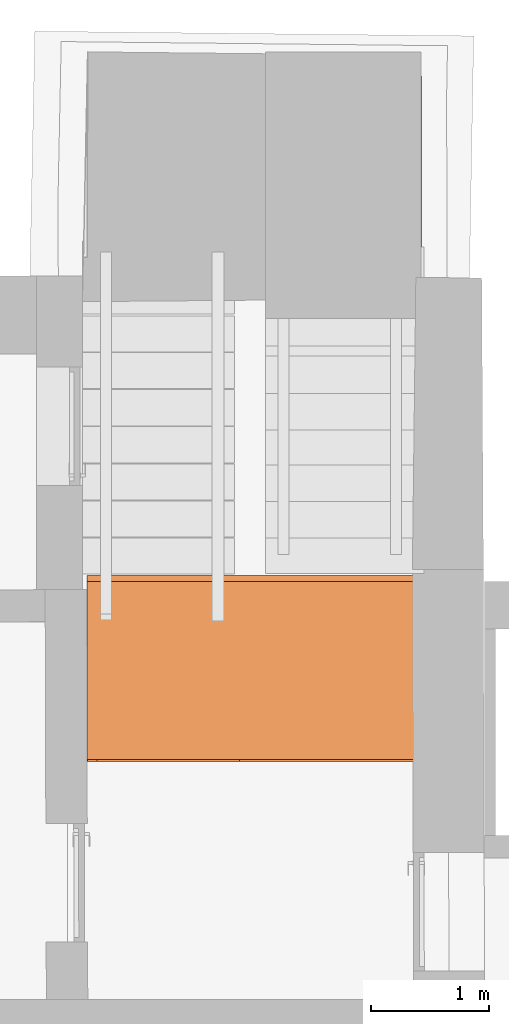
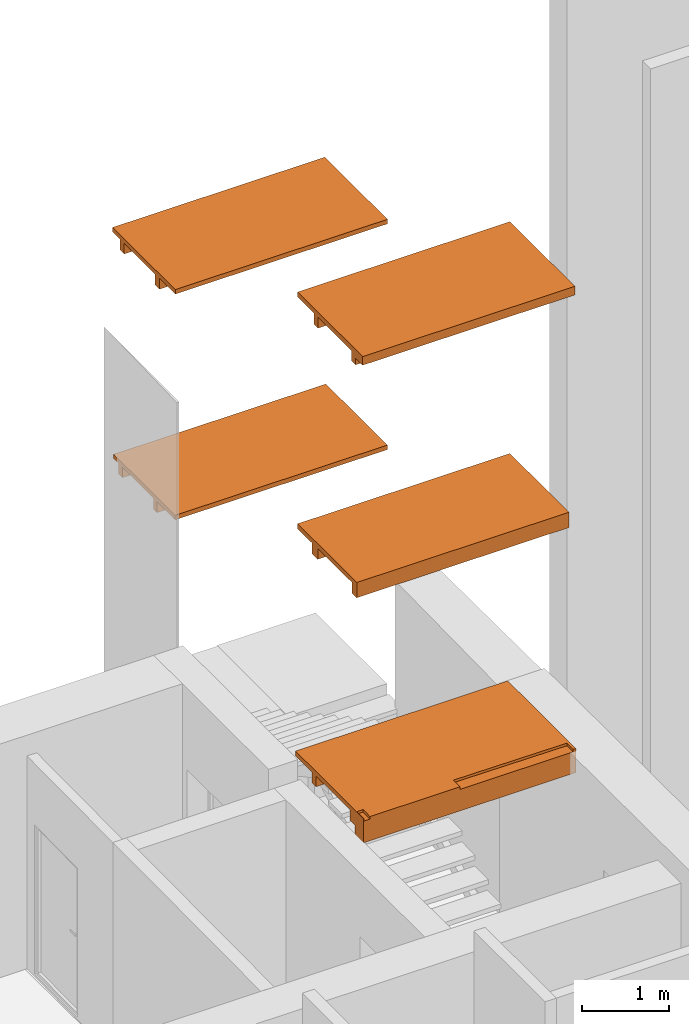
# One storey, part 17 of 17: 1 proxy.
"""IFC2X3 building model written with IfcOpenShell, lengths in millimetres."""

from ifc_helpers import new_model, entity, si_unit, converted_unit, derived_unit, direction, frame, origin, place, context, subcontext, project, spatial, faceted_brep, source, transform, mapped, type_object, type_shapes, element, save


model = new_model("IFC2X3")

# Units and contexts
model_context = context("Model", 3, precision=0.01, world=origin(), true_north=direction((6.12303176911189e-17, 1.0)))
context_of_model = context(None, 3, precision=0.01, world=origin(), true_north=direction((6.12303176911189e-17, 1.0)))
body_context = subcontext(model_context, "Body", "Model", "MODEL_VIEW")
ifc_project = project(units=[si_unit("LENGTHUNIT", "METRE", prefix="MILLI"), si_unit("AREAUNIT", "SQUARE_METRE"), si_unit("VOLUMEUNIT", "CUBIC_METRE"), converted_unit("PLANEANGLEUNIT", "DEGREE", entity("IfcRatioMeasure", 0.0174532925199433), si_unit("PLANEANGLEUNIT", "RADIAN"), dimensions=[0, 0, 0, 0, 0, 0, 0]), si_unit("MASSUNIT", "GRAM", prefix="KILO"), derived_unit("MASSDENSITYUNIT", [(si_unit("MASSUNIT", "GRAM", prefix="KILO"), 1), (si_unit("LENGTHUNIT", "METRE"), -3)]), si_unit("TIMEUNIT", "SECOND"), si_unit("FREQUENCYUNIT", "HERTZ"), si_unit("THERMODYNAMICTEMPERATUREUNIT", "DEGREE_CELSIUS"), derived_unit("THERMALTRANSMITTANCEUNIT", [(si_unit("MASSUNIT", "GRAM", prefix="KILO"), 1), (si_unit("THERMODYNAMICTEMPERATUREUNIT", "KELVIN"), -1), (si_unit("TIMEUNIT", "SECOND"), -3)]), derived_unit("VOLUMETRICFLOWRATEUNIT", [(si_unit("LENGTHUNIT", "METRE"), 3), (si_unit("TIMEUNIT", "SECOND"), -1)]), si_unit("ELECTRICCURRENTUNIT", "AMPERE"), si_unit("ELECTRICVOLTAGEUNIT", "VOLT"), si_unit("POWERUNIT", "WATT"), si_unit("FORCEUNIT", "NEWTON", prefix="KILO"), si_unit("ILLUMINANCEUNIT", "LUX"), si_unit("LUMINOUSFLUXUNIT", "LUMEN"), si_unit("LUMINOUSINTENSITYUNIT", "CANDELA"), derived_unit("USERDEFINED", [(si_unit("MASSUNIT", "GRAM", prefix="KILO"), -1), (si_unit("LENGTHUNIT", "METRE"), -2), (si_unit("TIMEUNIT", "SECOND"), 3), (si_unit("LUMINOUSFLUXUNIT", "LUMEN"), 1)]), derived_unit("LINEARVELOCITYUNIT", [(si_unit("LENGTHUNIT", "METRE"), 1), (si_unit("TIMEUNIT", "SECOND"), -1)]), si_unit("PRESSUREUNIT", "PASCAL"), derived_unit("USERDEFINED", [(si_unit("LENGTHUNIT", "METRE"), -2), (si_unit("MASSUNIT", "GRAM", prefix="KILO"), 1), (si_unit("TIMEUNIT", "SECOND"), -2)])], contexts=[model_context, context_of_model])

# Site, building, storey
site_placement = place(None, frame((121442.264707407, 135347.995453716, -1800.0)))
site = spatial("IfcSite", under=ifc_project, at=site_placement, Name="Surface", CompositionType="ELEMENT")
building_placement = place(site_placement, origin())
building = spatial("IfcBuilding", under=site, at=building_placement, CompositionType="ELEMENT")
storey_placement = place(building_placement, frame((0.0, 0.0, -1490.0)))
storey = spatial("IfcBuildingStorey", under=building, at=storey_placement, Name="Kelder", CompositionType="ELEMENT", Elevation=-1489.99999999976)

# Proxy
building_element_proxy_type = type_object("IfcBuildingElementProxyType", Name="Stairs21", PredefinedType="NOTDEFINED")
shared_shape = source(origin(), body_context, "Body", "Brep", [
    faceted_brep([(2827.30836330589, 5790.92948407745, 5156.76976505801), (2827.30836330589, 4345.72763201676, 5156.76976505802), (2827.30836330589, 4345.72763201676, 5093.6362636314), (2827.30836330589, 4710.85883248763, 5093.6362636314), (2827.30836330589, 4710.85883248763, 4940.78552237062), (2827.30836330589, 4816.92946486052, 4940.78552237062), (2827.30836330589, 4816.92946486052, 5090.78552237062), (2827.30836330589, 5526.92946486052, 5090.78552237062), (2827.30836330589, 5526.92946486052, 4941.76976505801), (2827.30836330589, 5615.92948407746, 4941.76976505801), (2827.30836330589, 5615.92948407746, 5091.76976505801), (2827.30836330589, 5790.92948407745, 5091.76976505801), (0.0, 5790.92948407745, 5156.76976505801), (0.0, 4345.72763201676, 5156.76976505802), (0.0, 4345.72763201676, 5093.6362636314), (0.0, 4710.85883248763, 5093.6362636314), (0.0, 4710.85883248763, 4940.78552237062), (0.0, 4816.92946486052, 4940.78552237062), (0.0, 4816.92946486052, 5090.78552237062), (0.0, 5526.92946486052, 5090.78552237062), (0.0, 5526.92946486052, 4941.76976505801), (0.0, 5615.92948407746, 4941.76976505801), (0.0, 5615.92948407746, 5091.76976505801), (0.0, 5790.92948407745, 5091.76976505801)], [[[0, 1, 2, 3, 4, 5, 6, 7, 8, 9, 10, 11]], [[1, 0, 12, 13]], [[2, 1, 13, 14]], [[3, 2, 14, 15]], [[4, 3, 15, 16]], [[5, 4, 16, 17]], [[6, 5, 17, 18]], [[7, 6, 18, 19]], [[8, 7, 19, 20]], [[9, 8, 20, 21]], [[10, 9, 21, 22]], [[11, 10, 22, 23]], [[0, 11, 23, 12]], [[12, 23, 22, 21, 20, 19, 18, 17, 16, 15, 14, 13]]]),
    faceted_brep([(0.0, 1521.05612040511, 6837.05437827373), (0.0, 1521.05612040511, 6763.71242613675), (0.0, 1145.89626562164, 6763.71242613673), (0.0, 1145.89626562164, 6609.92247764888), (0.0, 1053.67629586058, 6609.92247764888), (0.0, 1053.67629586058, 6765.22567676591), (0.0, 278.676295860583, 6765.22567676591), (0.0, 278.676295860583, 6620.22567676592), (0.0, 183.676295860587, 6620.22567676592), (0.0, 183.676295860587, 6715.22567676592), (0.0, 19.7279995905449, 6715.22567676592), (0.0, 19.7279995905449, 6837.05437827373), (2827.30836330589, 19.7279995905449, 6837.05437827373), (2827.30836330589, 1521.05612040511, 6837.05437827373), (2827.30836330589, 19.7279995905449, 6715.22567676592), (2827.30836330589, 183.676295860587, 6715.22567676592), (2827.30836330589, 183.676295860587, 6620.22567676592), (2827.30836330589, 278.676295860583, 6620.22567676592), (2827.30836330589, 278.676295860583, 6765.22567676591), (2827.30836330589, 1053.67629586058, 6765.22567676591), (2827.30836330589, 1053.67629586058, 6609.92247764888), (2827.30836330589, 1145.89626562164, 6609.92247764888), (2827.30836330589, 1145.89626562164, 6763.71242613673), (2827.30836330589, 1521.05612040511, 6763.71242613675)], [[[0, 1, 2, 3, 4, 5, 6, 7, 8, 9, 10, 11]], [[12, 13, 0, 11]], [[14, 12, 11, 10]], [[15, 14, 10, 9]], [[16, 15, 9, 8]], [[17, 16, 8, 7]], [[18, 17, 7, 6]], [[19, 18, 6, 5]], [[20, 19, 5, 4]], [[21, 20, 4, 3]], [[22, 21, 3, 2]], [[23, 22, 2, 1]], [[13, 23, 1, 0]], [[13, 12, 14, 15, 16, 17, 18, 19, 20, 21, 22, 23]]]),
    faceted_brep([(2827.30836330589, 156.936147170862, 3571.624705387), (2827.30836330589, 1522.04465906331, 3571.624705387), (0.0, 1522.04465906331, 3571.624705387), (0.0, 156.936147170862, 3571.624705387), (2827.30836330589, 156.936147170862, 3356.40163234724), (0.0, 156.936147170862, 3356.40163234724), (2827.30836330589, 272.703670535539, 3356.40163234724), (0.0, 272.703670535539, 3356.40163234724), (2827.30836330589, 272.703670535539, 3505.15163234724), (0.0, 272.703670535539, 3505.15163234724), (2827.30836330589, 1057.70367053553, 3505.15163234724), (0.0, 1057.70367053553, 3505.15163234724), (2827.30836330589, 1057.70367053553, 3351.40163234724), (0.0, 1057.70367053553, 3351.40163234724), (2827.30836330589, 1185.64939938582, 3351.40163234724), (0.0, 1185.64939938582, 3351.40163234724), (1069.29671335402, 1185.64939938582, 3351.40163234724), (1168.73776081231, 1185.64939938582, 3351.40163234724), (2827.30836330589, 1185.64939938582, 3501.624705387), (0.0, 1185.64939938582, 3501.624705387), (2827.30836330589, 1522.04465906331, 3501.624705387), (0.0, 1522.04465906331, 3501.624705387)], [[[0, 1, 2, 3]], [[4, 0, 3, 5]], [[6, 4, 5, 7]], [[8, 6, 7, 9]], [[10, 8, 9, 11]], [[12, 10, 11, 13]], [[14, 12, 13, 15, 16, 17]], [[18, 14, 17, 16, 15, 19]], [[20, 18, 19, 21]], [[1, 20, 21, 2]], [[1, 0, 4, 6, 8, 10, 12, 14, 18, 20]], [[2, 21, 19, 15, 13, 11, 9, 7, 5, 3]]]),
    faceted_brep([(2827.30836330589, 4347.86965589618, 1976.04717165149), (2827.30836330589, 5767.86965589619, 1976.04717165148), (0.0, 5767.86965589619, 1976.04717165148), (0.0, 4347.86965589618, 1976.04717165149), (2827.30836330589, 4347.86965589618, 1912.66756190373), (0.0, 4347.86965589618, 1912.66756190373), (115.244527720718, 4347.86965589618, 1912.66756190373), (216.281461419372, 4347.86965589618, 1912.66756190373), (2827.30836330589, 4768.67786846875, 1912.66756190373), (0.0, 4768.67786846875, 1912.66756190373), (115.244527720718, 4768.67786846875, 1912.66756190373), (216.281461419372, 4768.67786846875, 1912.66756190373), (1069.29671335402, 4768.67786846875, 1912.66756190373), (1168.73776081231, 4768.67786846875, 1912.66756190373), (2827.30836330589, 4768.67786846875, 1757.66756190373), (0.0, 4768.67786846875, 1757.66756190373), (1069.29671335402, 4768.67786846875, 1757.66756190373), (1168.73776081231, 4768.67786846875, 1757.66756190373), (2827.30836330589, 4853.67786846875, 1757.66756190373), (0.0, 4853.67786846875, 1757.66756190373), (2827.30836330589, 4853.67786846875, 1916.04717165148), (0.0, 4853.67786846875, 1916.04717165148), (2827.30836330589, 5567.8696558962, 1916.04717165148), (0.0, 5567.8696558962, 1916.04717165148), (2827.30836330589, 5567.8696558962, 1766.04717165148), (0.0, 5567.8696558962, 1766.04717165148), (2827.30836330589, 5657.8696558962, 1766.04717165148), (0.0, 5657.8696558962, 1766.04717165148), (2827.30836330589, 5657.8696558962, 1916.04717165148), (0.0, 5657.8696558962, 1916.04717165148), (2827.30836330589, 5767.86965589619, 1916.04717165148), (0.0, 5767.86965589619, 1916.04717165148)], [[[0, 1, 2, 3]], [[4, 0, 3, 5, 6, 7]], [[8, 4, 7, 6, 5, 9, 10, 11, 12, 13]], [[14, 8, 13, 12, 11, 10, 9, 15, 16, 17]], [[18, 14, 17, 16, 15, 19]], [[20, 18, 19, 21]], [[22, 20, 21, 23]], [[24, 22, 23, 25]], [[26, 24, 25, 27]], [[28, 26, 27, 29]], [[30, 28, 29, 31]], [[1, 30, 31, 2]], [[1, 0, 4, 8, 14, 18, 20, 22, 24, 26, 28, 30]], [[2, 31, 29, 27, 25, 23, 21, 19, 15, 9, 5, 3]]]),
    faceted_brep([(2827.30836330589, 1571.15178187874, 340.0), (2827.30836330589, 1571.15178187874, 275.0), (1713.06098181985, 1571.15178187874, 275.0), (1611.6249329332, 1571.15178187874, 275.0), (0.0, 1571.15178187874, 275.0), (0.0, 1571.15178187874, 340.0), (2827.30836330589, 0.0, 340.0), (0.0, 0.0, 340.0), (5.93486559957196, 0.0, 340.0), (5.93486559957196, 163.00835145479, 340.0), (87.2672908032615, 162.429936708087, 340.0), (86.1121319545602, 0.0, 340.0), (1286.14247764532, 0.0, 340.0), (1287.23694588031, 153.896069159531, 340.0), (2790.22938989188, 143.207183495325, 340.0), (2790.22938989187, 0.0, 340.0), (2827.30836330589, 0.0, 0.0), (2790.22938989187, 0.0, 303.788951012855), (1286.14247764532, 0.0, 303.788951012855), (86.1121319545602, 0.0, 303.788951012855), (5.93486559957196, 0.0, 303.788951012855), (0.0, 0.0, 0.0), (2827.30836330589, 193.436054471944, 0.0), (0.0, 193.436054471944, 0.0), (2827.30836330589, 193.436054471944, 125.0), (0.0, 193.436054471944, 125.0), (2827.30836330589, 318.43605447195, 125.0), (0.0, 318.43605447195, 125.0), (2827.30836330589, 318.43605447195, 275.0), (0.0, 318.43605447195, 275.0), (2827.30836330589, 1097.1829767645, 275.0), (0.0, 1097.1829767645, 275.0), (2827.30836330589, 1097.1829767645, 125.0), (0.0, 1097.1829767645, 125.0), (2827.30836330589, 1189.39280015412, 125.0), (0.0, 1189.39280015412, 125.0), (1611.6249329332, 1189.39280015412, 125.0), (1713.06098181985, 1189.39280015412, 125.0), (2557.34052366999, 1189.39280015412, 125.0), (2652.15979991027, 1189.39280015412, 125.0), (2827.30836330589, 1189.39280015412, 275.0), (0.0, 1189.39280015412, 275.0), (1287.23694588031, 153.896069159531, 303.788951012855), (2790.22938989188, 143.207183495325, 303.788951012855), (5.93486559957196, 163.008351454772, 303.788951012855), (87.267290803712, 162.42993670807, 303.788951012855)], [[[0, 1, 2, 3, 4, 5]], [[6, 0, 5, 7, 8, 9, 10, 11, 12, 13, 14, 15]], [[16, 6, 15, 17, 18, 12, 11, 19, 20, 8, 7, 21]], [[22, 16, 21, 23]], [[24, 22, 23, 25]], [[26, 24, 25, 27]], [[28, 26, 27, 29]], [[30, 28, 29, 31]], [[32, 30, 31, 33]], [[34, 32, 33, 35, 36, 37, 38, 39]], [[40, 34, 39, 38, 37, 36, 35, 41]], [[1, 40, 41, 4, 3, 2]], [[42, 43, 14, 13]], [[43, 42, 18, 17]], [[1, 0, 6, 16, 22, 24, 26, 28, 30, 32, 34, 40]], [[4, 41, 35, 33, 31, 29, 27, 25, 23, 21, 7, 5]], [[44, 45, 10, 9]], [[10, 45, 19, 11]], [[42, 13, 12, 18]], [[45, 44, 20, 19]], [[14, 43, 17, 15]], [[44, 9, 8, 20]]]),
])
type_shapes(building_element_proxy_type, [shared_shape])
proxy_placement = place(storey_placement, frame((-85316.2097699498, -118940.897172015, 2986.21104898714)))
element("IfcBuildingElementProxy", 1, at=proxy_placement, inside=storey, type_object=building_element_proxy_type, Name="Stairs21:Stairs21", ObjectType="Stairs21", context=body_context, shape_type="MappedRepresentation", body=[
    mapped(shared_shape, transform((0.0, 0.0, 0.0), scale=1.0)),
])

save(model, "model.ifc")
